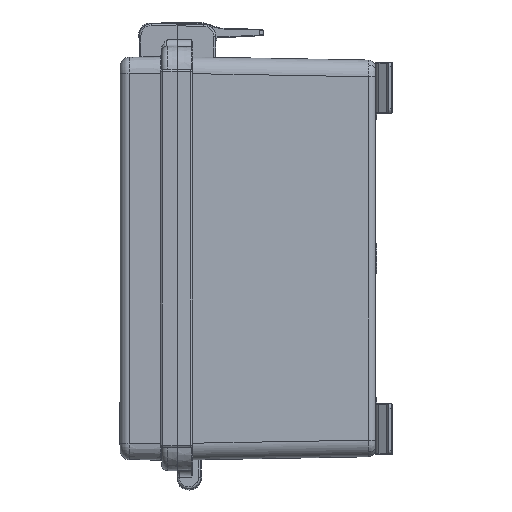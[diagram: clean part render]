
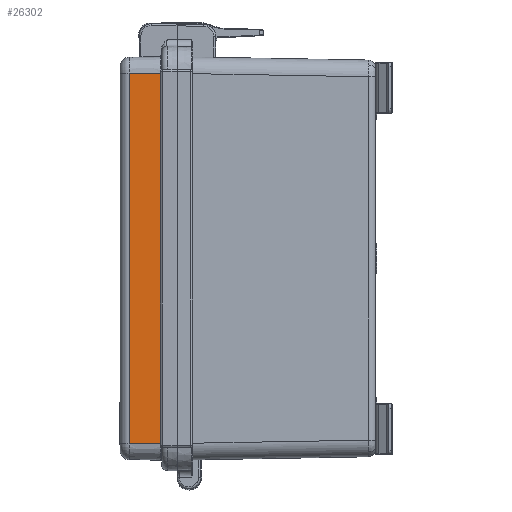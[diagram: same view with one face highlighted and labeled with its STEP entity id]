
A CAD part, left-side view. The second image highlights one B-rep face of the part: STEP entity #26302.
In plain terms, the highlighted planar face has unit normal (-1, 0.018, 0) as drawn and (1, -0.017, 0) by its records, which use the part's own axes.
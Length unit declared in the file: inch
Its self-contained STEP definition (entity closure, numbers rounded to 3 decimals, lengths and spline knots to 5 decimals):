
#663 = CARTESIAN_POINT ( 'NONE',  ( 2.84014, -0.22767, 2.60289 ) ) ;
#3385 = EDGE_CURVE ( 'NONE', #27645, #45466, #49311, .T. ) ;
#4652 = CARTESIAN_POINT ( 'NONE',  ( 2.84411, 0., -2.60289 ) ) ;
#4732 = FACE_OUTER_BOUND ( 'NONE', #25617, .T. ) ;
#6086 = DIRECTION ( 'NONE',  ( 0.017, 1., 0. ) ) ;
#17751 = VECTOR ( 'NONE', #48785, 39.37008 ) ;
#22353 = VECTOR ( 'NONE', #6086, 39.37008 ) ;
#23009 = CARTESIAN_POINT ( 'NONE',  ( 2.83234, -0.67428, 2.60289 ) ) ;
#23161 = ORIENTED_EDGE ( 'NONE', *, *, #64322, .T. ) ;
#25443 = PLANE ( 'NONE',  #41352 ) ;
#25617 = EDGE_LOOP ( 'NONE', ( #82865, #33844, #52813, #23161 ) ) ;
#25901 = DIRECTION ( 'NONE',  ( 1., -0.017, 0. ) ) ;
#26302 = ADVANCED_FACE ( 'NONE', ( #4732 ), #25443, .T. ) ;
#27645 = VERTEX_POINT ( 'NONE', #23009 ) ;
#30106 = EDGE_CURVE ( 'NONE', #77879, #86464, #41259, .T. ) ;
#33844 = ORIENTED_EDGE ( 'NONE', *, *, #91000, .T. ) ;
#36006 = CARTESIAN_POINT ( 'NONE',  ( 2.84014, -0.22767, 2.60289 ) ) ;
#41259 = LINE ( 'NONE', #4652, #17751 ) ;
#41352 = AXIS2_PLACEMENT_3D ( 'NONE', #62100, #25901, #69143 ) ;
#41690 = VECTOR ( 'NONE', #81109, 39.37008 ) ;
#45466 = VERTEX_POINT ( 'NONE', #663 ) ;
#46657 = VECTOR ( 'NONE', #64729, 39.37008 ) ;
#48785 = DIRECTION ( 'NONE',  ( 0.017, 1., 0. ) ) ;
#49311 = LINE ( 'NONE', #85114, #22353 ) ;
#52813 = ORIENTED_EDGE ( 'NONE', *, *, #3385, .F. ) ;
#53774 = CARTESIAN_POINT ( 'NONE',  ( 2.83234, -0.67428, 2.60289 ) ) ;
#57746 = CARTESIAN_POINT ( 'NONE',  ( 2.83234, -0.67428, -2.60289 ) ) ;
#59939 = LINE ( 'NONE', #53774, #41690 ) ;
#62100 = CARTESIAN_POINT ( 'NONE',  ( 2.84411, 0., 2.60289 ) ) ;
#64322 = EDGE_CURVE ( 'NONE', #27645, #77879, #59939, .T. ) ;
#64729 = DIRECTION ( 'NONE',  ( 0., 0., 1. ) ) ;
#69143 = DIRECTION ( 'NONE',  ( 0.017, 1., 0. ) ) ;
#77879 = VERTEX_POINT ( 'NONE', #57746 ) ;
#78832 = LINE ( 'NONE', #36006, #46657 ) ;
#80261 = CARTESIAN_POINT ( 'NONE',  ( 2.84014, -0.22767, -2.60289 ) ) ;
#81109 = DIRECTION ( 'NONE',  ( 0., 0., -1. ) ) ;
#82865 = ORIENTED_EDGE ( 'NONE', *, *, #30106, .T. ) ;
#85114 = CARTESIAN_POINT ( 'NONE',  ( 2.84411, 0., 2.60289 ) ) ;
#86464 = VERTEX_POINT ( 'NONE', #80261 ) ;
#91000 = EDGE_CURVE ( 'NONE', #86464, #45466, #78832, .T. ) ;
